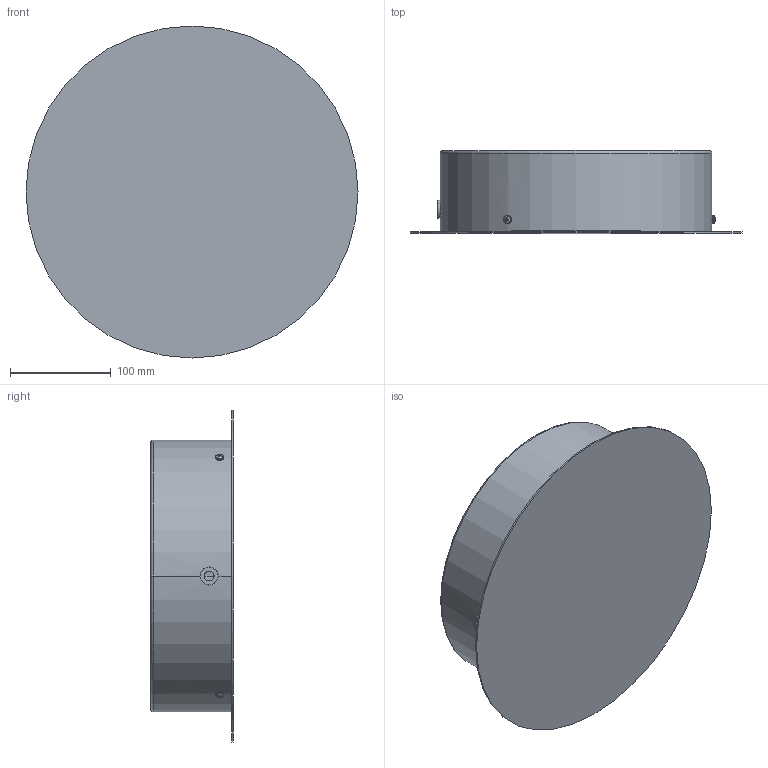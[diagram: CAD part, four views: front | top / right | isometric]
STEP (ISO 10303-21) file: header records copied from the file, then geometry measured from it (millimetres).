
FILE_DESCRIPTION (( 'STEP AP203' ), '1' );
FILE_NAME ('ACCANOPYTO001XX-PER 3D.STEP', '2026-07-08T08:27:07', ( '' ), ( '' ), 'SwSTEP 2.0', 'SolidWorks 2026', '' );
FILE_SCHEMA (( 'CONFIG_CONTROL_DESIGN' ));
Length unit declared in the file: millimetre
Products named in the file (1): ACCANOPYTO001XX-PER 3D
Bounding box: 330 x 82 x 330 mm (x, y, z)
Surface area: 427677.3 mm2 (no closed solid volume)
Topology: 0 solids, 18 shells, 144 faces, 775 edges, 634 vertices
Faces by surface type: plane 68, cylinder 42, cone 20, torus 8, sphere 6
Entity records: 8849 total; most frequent: CARTESIAN_POINT 2806, DIRECTION 1286, ORIENTED_EDGE 1005, EDGE_CURVE 773, VERTEX_POINT 634, AXIS2_PLACEMENT_3D 490, CIRCLE 345, LINE 306
